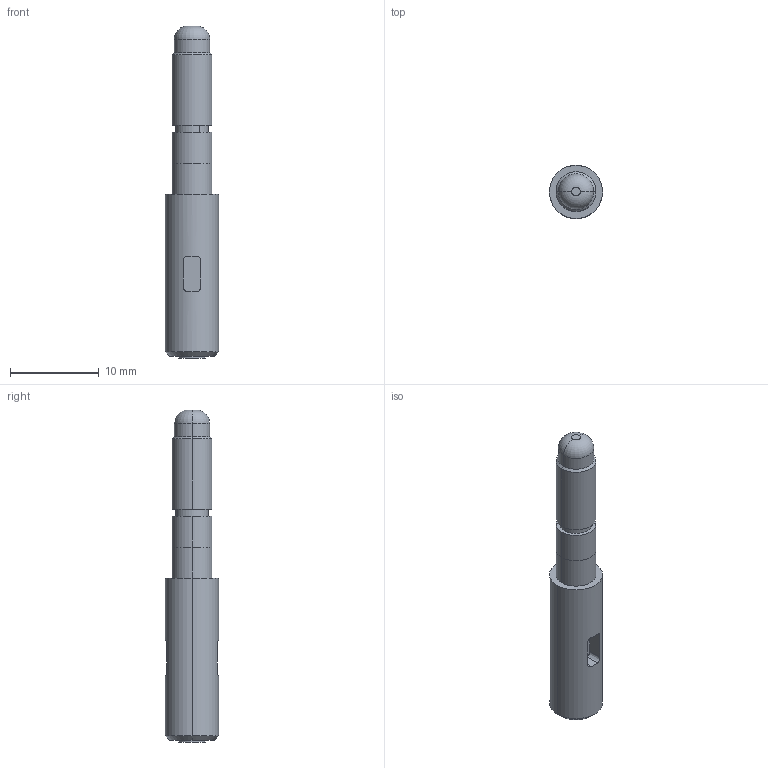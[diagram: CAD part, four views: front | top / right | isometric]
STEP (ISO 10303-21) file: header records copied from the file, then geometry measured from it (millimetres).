
FILE_DESCRIPTION(('CATIA V5 STEP Exchange'),'2;1');
FILE_NAME('C:\Users\Administrator\Desktop\LS42.12_V1 阀芯A.stp','2020-04-01T10:23:55+00:00',('none'),('none'),'CATIA Version 5 Release 21 GA (IN-10)','CATIA V5 STEP AP214','none');
FILE_SCHEMA(('AUTOMOTIVE_DESIGN { 1 0 10303 214 1 1 1 1 }'));
Length unit declared in the file: millimetre
Products named in the file (1): Copy (1) of 升降阀杆
Bounding box: 6 x 6 x 37.5 mm (x, y, z)
Volume: 772 mm3; surface area: 695.4 mm2
Topology: 1 solids, 1 shells, 44 faces, 100 edges, 64 vertices
Faces by surface type: cylinder 18, plane 16, cone 4, extrusion 4, torus 2
Entity records: 1214 total; most frequent: CARTESIAN_POINT 281, ORIENTED_EDGE 200, DIRECTION 144, EDGE_CURVE 100, AXIS2_PLACEMENT_3D 71, VERTEX_POINT 64, EDGE_LOOP 50, VECTOR 46
